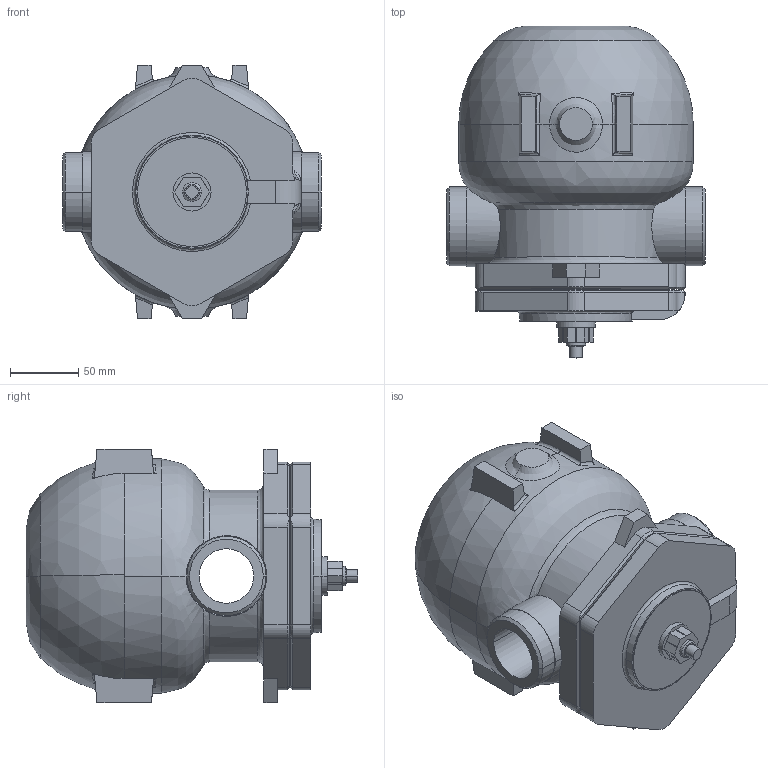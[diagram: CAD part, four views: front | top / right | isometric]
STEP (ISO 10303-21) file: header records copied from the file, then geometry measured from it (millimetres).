
FILE_DESCRIPTION( (''), '2;1');
FILE_NAME ('PC1027.9516.TSF-11 32A_17315.stp','2025-07-30T16:37:22',(''),(''),'spGate 20.6.3 (****-****-****-****)','','');
FILE_SCHEMA (('AUTOMOTIVE_DESIGN'));
Length unit declared in the file: millimetre
Products named in the file (2): Assembly; 1123-01-2 TSF-11 32A
Assembly tree (1 placements, depth 2):
  Assembly
    1123-01-2 TSF-11 32A
Bounding box: 190 x 243.5 x 186 mm (x, y, z)
Volume: 3771898.4 mm3; surface area: 193964 mm2
Topology: 1 solids, 1 shells, 193 faces, 504 edges, 320 vertices
Faces by surface type: plane 87, bspline 53, cylinder 51, sphere 2
Entity records: 11349 total; most frequent: CARTESIAN_POINT 2906, ORIENTED_EDGE 1008, DIRECTION 848, COLOUR_RGB 698, PRESENTATION_STYLE_ASSIGNMENT 698, STYLED_ITEM 698, EDGE_CURVE 504, DRAUGHTING_PRE_DEFINED_CURVE_FONT 504
